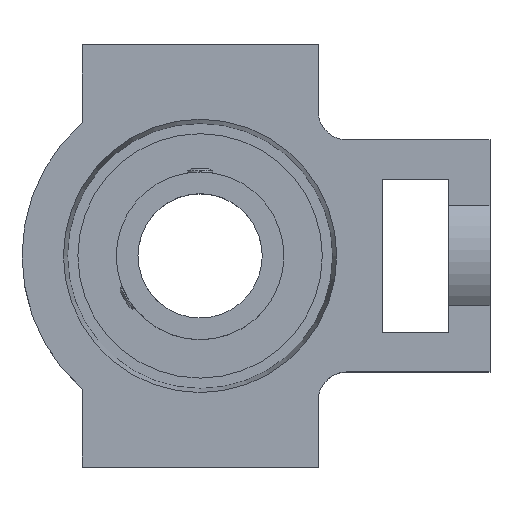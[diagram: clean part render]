
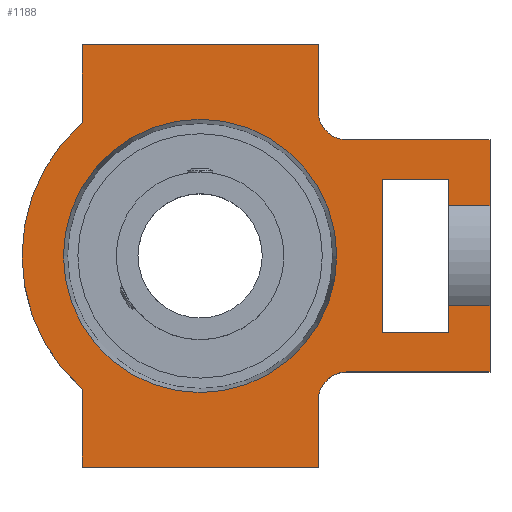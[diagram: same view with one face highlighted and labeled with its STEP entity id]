
A CAD part, top view. The second image highlights one B-rep face of the part: STEP entity #1188.
In plain terms, the highlighted planar face has unit normal (0, 0, 1).
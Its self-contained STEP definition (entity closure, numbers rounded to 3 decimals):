
#123=CARTESIAN_POINT('',(9.26,-38.433,14.));
#124=VERTEX_POINT('',#123);
#131=CARTESIAN_POINT('',(2.26,-45.433,14.));
#132=VERTEX_POINT('',#131);
#133=CARTESIAN_POINT('',(9.26,-45.433,14.));
#134=DIRECTION('',(0.0,0.0,1.0));
#135=DIRECTION('',(-0.707,0.707,0.0));
#136=AXIS2_PLACEMENT_3D('',#133,#134,#135);
#137=CIRCLE('',#136,7.);
#138=EDGE_CURVE('',#124,#132,#137,.T.);
#163=CARTESIAN_POINT('',(43.76,-38.433,14.));
#164=VERTEX_POINT('',#163);
#171=CARTESIAN_POINT('',(43.76,-38.433,14.));
#172=DIRECTION('',(-1.0,0.0,0.0));
#173=VECTOR('',#172,34.5);
#174=LINE('',#171,#173);
#175=EDGE_CURVE('',#164,#124,#174,.T.);
#196=CARTESIAN_POINT('',(2.26,24.567,14.));
#197=VERTEX_POINT('',#196);
#204=CARTESIAN_POINT('',(9.26,17.567,14.));
#205=VERTEX_POINT('',#204);
#206=CARTESIAN_POINT('',(9.26,24.567,14.));
#207=DIRECTION('',(0.0,0.0,1.0));
#208=DIRECTION('',(-0.707,-0.707,0.0));
#209=AXIS2_PLACEMENT_3D('',#206,#207,#208);
#210=CIRCLE('',#209,7.0);
#211=EDGE_CURVE('',#197,#205,#210,.T.);
#268=CARTESIAN_POINT('',(2.26,40.567,14.));
#269=VERTEX_POINT('',#268);
#276=CARTESIAN_POINT('',(2.26,40.567,14.));
#277=DIRECTION('',(0.0,-1.0,0.0));
#278=VECTOR('',#277,16.);
#279=LINE('',#276,#278);
#280=EDGE_CURVE('',#269,#197,#279,.T.);
#423=CARTESIAN_POINT('',(-54.74,-61.433,14.));
#424=VERTEX_POINT('',#423);
#431=CARTESIAN_POINT('',(-54.74,-42.631,14.));
#432=VERTEX_POINT('',#431);
#433=CARTESIAN_POINT('',(-54.74,-61.433,14.));
#434=DIRECTION('',(0.0,1.0,0.0));
#435=VECTOR('',#434,18.801);
#436=LINE('',#433,#435);
#437=EDGE_CURVE('',#424,#432,#436,.T.);
#470=CARTESIAN_POINT('',(2.26,-61.433,14.));
#471=VERTEX_POINT('',#470);
#478=CARTESIAN_POINT('',(2.26,-61.433,14.));
#479=DIRECTION('',(-1.0,0.0,0.0));
#480=VECTOR('',#479,57.0);
#481=LINE('',#478,#480);
#482=EDGE_CURVE('',#471,#424,#481,.T.);
#597=CARTESIAN_POINT('',(-54.74,40.567,14.));
#598=VERTEX_POINT('',#597);
#605=CARTESIAN_POINT('',(-54.74,40.567,14.));
#606=DIRECTION('',(1.0,0.0,0.0));
#607=VECTOR('',#606,57.0);
#608=LINE('',#605,#607);
#609=EDGE_CURVE('',#598,#269,#608,.T.);
#632=CARTESIAN_POINT('',(-54.74,21.766,14.));
#633=VERTEX_POINT('',#632);
#640=CARTESIAN_POINT('',(-54.74,21.766,14.));
#641=DIRECTION('',(0.0,1.0,0.0));
#642=VECTOR('',#641,18.801);
#643=LINE('',#640,#642);
#644=EDGE_CURVE('',#633,#598,#643,.T.);
#715=CARTESIAN_POINT('',(-59.24,-10.433,14.));
#716=VERTEX_POINT('',#715);
#717=CARTESIAN_POINT('',(-26.24,-10.433,14.));
#718=DIRECTION('',(0.0,0.0,-1.0));
#719=DIRECTION('',(-1.0,0.0,0.0));
#720=AXIS2_PLACEMENT_3D('',#717,#718,#719);
#721=CIRCLE('',#720,33.);
#722=EDGE_CURVE('',#716,#716,#721,.T.);
#777=CARTESIAN_POINT('',(33.76,1.661,14.));
#778=VERTEX_POINT('',#777);
#779=CARTESIAN_POINT('',(33.76,-22.526,14.));
#780=VERTEX_POINT('',#779);
#788=CARTESIAN_POINT('',(43.76,-22.526,14.));
#789=VERTEX_POINT('',#788);
#790=CARTESIAN_POINT('',(43.76,-22.526,14.));
#791=DIRECTION('',(-1.0,0.0,0.0));
#792=VECTOR('',#791,10.);
#793=LINE('',#790,#792);
#794=EDGE_CURVE('',#789,#780,#793,.T.);
#796=CARTESIAN_POINT('',(43.76,1.661,14.));
#797=VERTEX_POINT('',#796);
#805=CARTESIAN_POINT('',(33.76,1.661,14.));
#806=DIRECTION('',(1.0,0.0,0.0));
#807=VECTOR('',#806,10.);
#808=LINE('',#805,#807);
#809=EDGE_CURVE('',#778,#797,#808,.T.);
#847=CARTESIAN_POINT('',(33.76,8.067,14.));
#848=VERTEX_POINT('',#847);
#849=CARTESIAN_POINT('',(33.76,8.067,14.));
#850=DIRECTION('',(0.0,-1.0,0.0));
#851=VECTOR('',#850,6.407);
#852=LINE('',#849,#851);
#853=EDGE_CURVE('',#848,#778,#852,.T.);
#878=CARTESIAN_POINT('',(33.76,-28.933,14.));
#879=VERTEX_POINT('',#878);
#886=CARTESIAN_POINT('',(33.76,-22.526,14.));
#887=DIRECTION('',(0.0,-1.0,0.0));
#888=VECTOR('',#887,6.407);
#889=LINE('',#886,#888);
#890=EDGE_CURVE('',#780,#879,#889,.T.);
#904=CARTESIAN_POINT('',(17.76,-28.933,14.));
#905=VERTEX_POINT('',#904);
#906=CARTESIAN_POINT('',(33.76,-28.933,14.));
#907=DIRECTION('',(-1.0,0.0,0.0));
#908=VECTOR('',#907,16.);
#909=LINE('',#906,#908);
#910=EDGE_CURVE('',#879,#905,#909,.T.);
#935=CARTESIAN_POINT('',(17.76,8.067,14.));
#936=VERTEX_POINT('',#935);
#937=CARTESIAN_POINT('',(17.76,-28.933,14.));
#938=DIRECTION('',(0.0,1.0,0.0));
#939=VECTOR('',#938,37.0);
#940=LINE('',#937,#939);
#941=EDGE_CURVE('',#905,#936,#940,.T.);
#966=CARTESIAN_POINT('',(17.76,8.067,14.));
#967=DIRECTION('',(1.0,0.0,0.0));
#968=VECTOR('',#967,16.);
#969=LINE('',#966,#968);
#970=EDGE_CURVE('',#936,#848,#969,.T.);
#1055=CARTESIAN_POINT('',(43.76,17.567,14.));
#1056=VERTEX_POINT('',#1055);
#1057=CARTESIAN_POINT('',(9.26,17.567,14.));
#1058=DIRECTION('',(1.0,0.0,0.0));
#1059=VECTOR('',#1058,34.5);
#1060=LINE('',#1057,#1059);
#1061=EDGE_CURVE('',#205,#1056,#1060,.T.);
#1078=CARTESIAN_POINT('',(43.76,17.567,14.));
#1079=DIRECTION('',(0.0,-1.0,0.0));
#1080=VECTOR('',#1079,15.907);
#1081=LINE('',#1078,#1080);
#1082=EDGE_CURVE('',#1056,#797,#1081,.T.);
#1085=CARTESIAN_POINT('',(43.76,-22.526,14.));
#1086=DIRECTION('',(0.0,-1.0,0.0));
#1087=VECTOR('',#1086,15.907);
#1088=LINE('',#1085,#1087);
#1089=EDGE_CURVE('',#789,#164,#1088,.T.);
#1108=CARTESIAN_POINT('',(2.26,-45.433,14.));
#1109=DIRECTION('',(0.0,-1.0,0.0));
#1110=VECTOR('',#1109,16.0);
#1111=LINE('',#1108,#1110);
#1112=EDGE_CURVE('',#132,#471,#1111,.T.);
#1145=CARTESIAN_POINT('',(-26.24,-10.433,14.));
#1146=DIRECTION('',(0.0,0.0,-1.0));
#1147=DIRECTION('',(-0.663,0.749,0.0));
#1148=AXIS2_PLACEMENT_3D('',#1145,#1146,#1147);
#1149=CIRCLE('',#1148,43.);
#1150=EDGE_CURVE('',#432,#633,#1149,.T.);
#1158=CARTESIAN_POINT('',(-12.689,-10.433,14.));
#1159=DIRECTION('',(0.0,0.0,1.0));
#1160=DIRECTION('',(1.0,0.0,0.0));
#1161=AXIS2_PLACEMENT_3D('',#1158,#1159,#1160);
#1162=PLANE('',#1161);
#1163=ORIENTED_EDGE('',*,*,#794,.T.);
#1164=ORIENTED_EDGE('',*,*,#890,.T.);
#1165=ORIENTED_EDGE('',*,*,#910,.T.);
#1166=ORIENTED_EDGE('',*,*,#941,.T.);
#1167=ORIENTED_EDGE('',*,*,#970,.T.);
#1168=ORIENTED_EDGE('',*,*,#853,.T.);
#1169=ORIENTED_EDGE('',*,*,#809,.T.);
#1170=ORIENTED_EDGE('',*,*,#1082,.F.);
#1171=ORIENTED_EDGE('',*,*,#1061,.F.);
#1172=ORIENTED_EDGE('',*,*,#211,.F.);
#1173=ORIENTED_EDGE('',*,*,#280,.F.);
#1174=ORIENTED_EDGE('',*,*,#609,.F.);
#1175=ORIENTED_EDGE('',*,*,#644,.F.);
#1176=ORIENTED_EDGE('',*,*,#1150,.F.);
#1177=ORIENTED_EDGE('',*,*,#437,.F.);
#1178=ORIENTED_EDGE('',*,*,#482,.F.);
#1179=ORIENTED_EDGE('',*,*,#1112,.F.);
#1180=ORIENTED_EDGE('',*,*,#138,.F.);
#1181=ORIENTED_EDGE('',*,*,#175,.F.);
#1182=ORIENTED_EDGE('',*,*,#1089,.F.);
#1183=EDGE_LOOP('',(#1163,#1164,#1165,#1166,#1167,#1168,#1169,#1170,#1171,#1172,#1173,#1174,#1175,#1176,#1177,#1178,#1179,#1180,#1181,#1182));
#1184=FACE_OUTER_BOUND('',#1183,.T.);
#1185=ORIENTED_EDGE('',*,*,#722,.T.);
#1186=EDGE_LOOP('',(#1185));
#1187=FACE_BOUND('',#1186,.T.);
#1188=ADVANCED_FACE('',(#1184,#1187),#1162,.T.);
